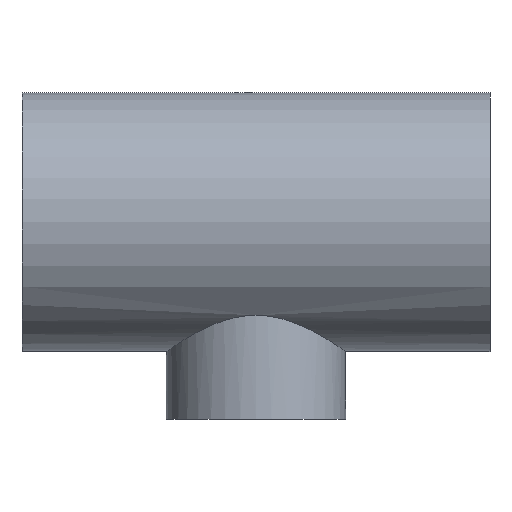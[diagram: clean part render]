
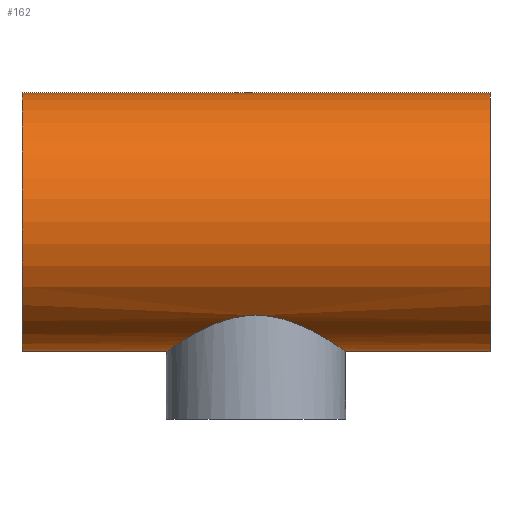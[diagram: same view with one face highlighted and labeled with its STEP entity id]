
A CAD part, top view. The second image highlights one B-rep face of the part: STEP entity #162.
In plain terms, the highlighted cylindrical face has radius 65 mm (diameter 130 mm), a full revolution.
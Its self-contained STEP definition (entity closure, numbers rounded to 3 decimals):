
#16=B_SPLINE_CURVE_WITH_KNOTS('',3,(#344,#345,#346,#347,#348,#349,#350,
#351,#352,#353,#354,#355,#356,#357,#358,#359,#360,#361,#362,#363,#364,#365,
#366,#367,#368,#369,#370,#371,#372,#373,#374,#375,#376,#377,#378,#379,#380,
#381,#382,#383,#384,#385,#386,#387,#388,#389,#390,#391,#392,#393,#394,#395,
#396,#397,#398,#399,#400,#401,#402,#403,#404,#405,#406,#407,#408,#409),
 .UNSPECIFIED.,.T.,.F.,(4,2,2,2,2,2,2,2,2,2,2,2,2,2,2,2,2,2,2,2,2,2,2,2,
2,2,2,2,2,2,2,2,4),(0.,0.893,1.785,2.678,
3.571,4.451,5.332,6.213,7.093,
7.974,8.855,9.735,10.616,11.509,
12.401,13.294,14.186,15.079,15.972,
16.864,17.757,18.638,19.518,20.399,
21.28,22.16,23.041,23.922,24.802,
25.695,26.588,27.48,28.373),
 .UNSPECIFIED.);
#32=FACE_BOUND('',#69,.T.);
#33=FACE_BOUND('',#70,.T.);
#46=FACE_OUTER_BOUND('',#68,.T.);
#68=EDGE_LOOP('',(#136));
#69=EDGE_LOOP('',(#137));
#70=EDGE_LOOP('',(#138));
#88=CIRCLE('',#187,65.);
#89=CIRCLE('',#188,65.);
#101=VERTEX_POINT('',#341);
#102=VERTEX_POINT('',#343);
#103=VERTEX_POINT('',#410);
#115=EDGE_CURVE('',#101,#101,#88,.T.);
#116=EDGE_CURVE('',#102,#102,#16,.T.);
#117=EDGE_CURVE('',#103,#103,#89,.T.);
#136=ORIENTED_EDGE('',*,*,#115,.F.);
#137=ORIENTED_EDGE('',*,*,#116,.T.);
#138=ORIENTED_EDGE('',*,*,#117,.F.);
#152=CYLINDRICAL_SURFACE('',#186,65.);
#162=ADVANCED_FACE('',(#46,#32,#33),#152,.T.);
#186=AXIS2_PLACEMENT_3D('',#340,#230,#231);
#187=AXIS2_PLACEMENT_3D('',#342,#232,#233);
#188=AXIS2_PLACEMENT_3D('',#411,#234,#235);
#230=DIRECTION('center_axis',(1.,0.,0.));
#231=DIRECTION('ref_axis',(0.,-1.,0.));
#232=DIRECTION('center_axis',(-1.,0.,0.));
#233=DIRECTION('ref_axis',(0.,-1.,0.));
#234=DIRECTION('center_axis',(1.,0.,0.));
#235=DIRECTION('ref_axis',(0.,-1.,0.));
#340=CARTESIAN_POINT('Origin',(0.,0.,0.));
#341=CARTESIAN_POINT('',(-117.5,65.,0.));
#342=CARTESIAN_POINT('Origin',(-117.5,0.,0.));
#343=CARTESIAN_POINT('',(0.,-46.904,45.));
#344=CARTESIAN_POINT('Ctrl Pts',(0.,-46.904,
45.));
#345=CARTESIAN_POINT('Ctrl Pts',(2.976,-46.904,45.));
#346=CARTESIAN_POINT('Ctrl Pts',(5.989,-47.196,44.701));
#347=CARTESIAN_POINT('Ctrl Pts',(11.886,-48.3,43.506));
#348=CARTESIAN_POINT('Ctrl Pts',(14.772,-49.108,42.61));
#349=CARTESIAN_POINT('Ctrl Pts',(20.254,-51.026,40.294));
#350=CARTESIAN_POINT('Ctrl Pts',(22.856,-52.134,38.872));
#351=CARTESIAN_POINT('Ctrl Pts',(27.661,-54.412,35.613));
#352=CARTESIAN_POINT('Ctrl Pts',(29.864,-55.581,33.775));
#353=CARTESIAN_POINT('Ctrl Pts',(33.749,-57.762,29.891));
#354=CARTESIAN_POINT('Ctrl Pts',(35.581,-58.859,27.702));
#355=CARTESIAN_POINT('Ctrl Pts',(38.849,-60.89,22.896));
#356=CARTESIAN_POINT('Ctrl Pts',(40.284,-61.823,20.278));
#357=CARTESIAN_POINT('Ctrl Pts',(42.617,-63.367,14.758));
#358=CARTESIAN_POINT('Ctrl Pts',(43.516,-63.98,11.85));
#359=CARTESIAN_POINT('Ctrl Pts',(44.708,-64.797,5.939));
#360=CARTESIAN_POINT('Ctrl Pts',(45.,-65.,2.936));
#361=CARTESIAN_POINT('Ctrl Pts',(45.,-65.,-2.936));
#362=CARTESIAN_POINT('Ctrl Pts',(44.708,-64.797,-5.939));
#363=CARTESIAN_POINT('Ctrl Pts',(43.516,-63.98,-11.85));
#364=CARTESIAN_POINT('Ctrl Pts',(42.617,-63.367,-14.758));
#365=CARTESIAN_POINT('Ctrl Pts',(40.284,-61.823,-20.278));
#366=CARTESIAN_POINT('Ctrl Pts',(38.849,-60.89,-22.896));
#367=CARTESIAN_POINT('Ctrl Pts',(35.581,-58.859,-27.702));
#368=CARTESIAN_POINT('Ctrl Pts',(33.749,-57.762,-29.891));
#369=CARTESIAN_POINT('Ctrl Pts',(29.864,-55.581,-33.775));
#370=CARTESIAN_POINT('Ctrl Pts',(27.661,-54.412,-35.613));
#371=CARTESIAN_POINT('Ctrl Pts',(22.856,-52.134,-38.872));
#372=CARTESIAN_POINT('Ctrl Pts',(20.254,-51.026,-40.294));
#373=CARTESIAN_POINT('Ctrl Pts',(14.772,-49.108,-42.61));
#374=CARTESIAN_POINT('Ctrl Pts',(11.886,-48.3,-43.506));
#375=CARTESIAN_POINT('Ctrl Pts',(5.989,-47.196,-44.701));
#376=CARTESIAN_POINT('Ctrl Pts',(2.976,-46.904,-45.));
#377=CARTESIAN_POINT('Ctrl Pts',(-2.976,-46.904,-45.));
#378=CARTESIAN_POINT('Ctrl Pts',(-5.989,-47.196,-44.701));
#379=CARTESIAN_POINT('Ctrl Pts',(-11.886,-48.3,-43.506));
#380=CARTESIAN_POINT('Ctrl Pts',(-14.772,-49.108,-42.61));
#381=CARTESIAN_POINT('Ctrl Pts',(-20.254,-51.026,-40.294));
#382=CARTESIAN_POINT('Ctrl Pts',(-22.856,-52.134,-38.872));
#383=CARTESIAN_POINT('Ctrl Pts',(-27.661,-54.412,-35.613));
#384=CARTESIAN_POINT('Ctrl Pts',(-29.864,-55.581,-33.775));
#385=CARTESIAN_POINT('Ctrl Pts',(-33.749,-57.762,-29.891));
#386=CARTESIAN_POINT('Ctrl Pts',(-35.581,-58.859,-27.702));
#387=CARTESIAN_POINT('Ctrl Pts',(-38.849,-60.89,-22.896));
#388=CARTESIAN_POINT('Ctrl Pts',(-40.284,-61.823,-20.278));
#389=CARTESIAN_POINT('Ctrl Pts',(-42.617,-63.367,-14.758));
#390=CARTESIAN_POINT('Ctrl Pts',(-43.516,-63.98,-11.85));
#391=CARTESIAN_POINT('Ctrl Pts',(-44.708,-64.797,-5.939));
#392=CARTESIAN_POINT('Ctrl Pts',(-45.,-65.,-2.936));
#393=CARTESIAN_POINT('Ctrl Pts',(-45.,-65.,2.936));
#394=CARTESIAN_POINT('Ctrl Pts',(-44.708,-64.797,5.939));
#395=CARTESIAN_POINT('Ctrl Pts',(-43.516,-63.98,11.85));
#396=CARTESIAN_POINT('Ctrl Pts',(-42.617,-63.367,14.758));
#397=CARTESIAN_POINT('Ctrl Pts',(-40.284,-61.823,20.278));
#398=CARTESIAN_POINT('Ctrl Pts',(-38.849,-60.89,22.896));
#399=CARTESIAN_POINT('Ctrl Pts',(-35.581,-58.859,27.702));
#400=CARTESIAN_POINT('Ctrl Pts',(-33.749,-57.762,29.891));
#401=CARTESIAN_POINT('Ctrl Pts',(-29.864,-55.581,33.775));
#402=CARTESIAN_POINT('Ctrl Pts',(-27.661,-54.412,35.613));
#403=CARTESIAN_POINT('Ctrl Pts',(-22.856,-52.134,38.872));
#404=CARTESIAN_POINT('Ctrl Pts',(-20.254,-51.026,40.294));
#405=CARTESIAN_POINT('Ctrl Pts',(-14.772,-49.108,42.61));
#406=CARTESIAN_POINT('Ctrl Pts',(-11.886,-48.3,43.506));
#407=CARTESIAN_POINT('Ctrl Pts',(-5.989,-47.196,44.701));
#408=CARTESIAN_POINT('Ctrl Pts',(-2.976,-46.904,45.));
#409=CARTESIAN_POINT('Ctrl Pts',(0.,-46.904,
45.));
#410=CARTESIAN_POINT('',(117.5,65.,0.));
#411=CARTESIAN_POINT('Origin',(117.5,0.,0.));
